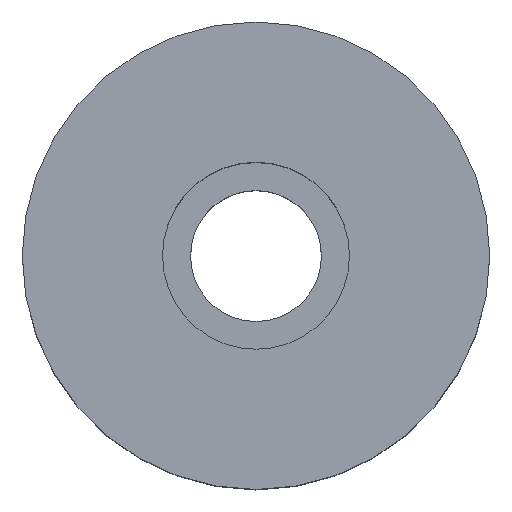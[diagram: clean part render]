
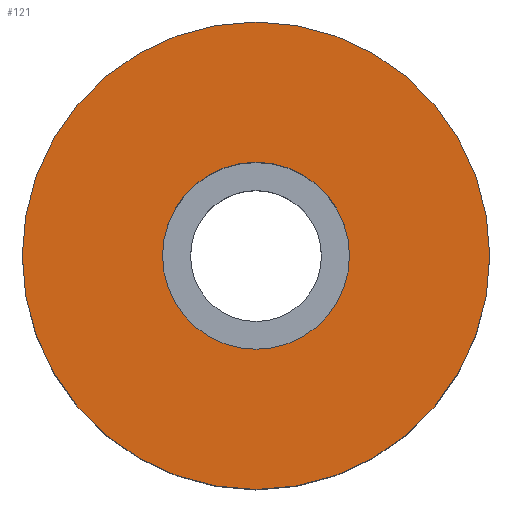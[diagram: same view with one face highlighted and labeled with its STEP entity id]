
A CAD part, top view. The second image highlights one B-rep face of the part: STEP entity #121.
In plain terms, the highlighted planar face has unit normal (0, 0, 1).
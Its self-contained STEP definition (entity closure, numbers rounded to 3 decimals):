
#121=ADVANCED_FACE('',(#133,#134),#130,.T.);
#130=PLANE('',#234);
#133=FACE_BOUND('',#139,.T.);
#134=FACE_BOUND('',#140,.T.);
#139=EDGE_LOOP('',(#151,#152));
#140=EDGE_LOOP('',(#153,#154));
#151=ORIENTED_EDGE('',*,*,#199,.T.);
#152=ORIENTED_EDGE('',*,*,#200,.T.);
#153=ORIENTED_EDGE('',*,*,#201,.F.);
#154=ORIENTED_EDGE('',*,*,#202,.F.);
#187=VERTEX_POINT('',#303);
#188=VERTEX_POINT('',#304);
#189=VERTEX_POINT('',#307);
#190=VERTEX_POINT('',#308);
#199=EDGE_CURVE('',#187,#188,#217,.T.);
#200=EDGE_CURVE('',#188,#187,#218,.T.);
#201=EDGE_CURVE('',#189,#190,#219,.T.);
#202=EDGE_CURVE('',#190,#189,#220,.T.);
#217=CIRCLE('',#230,25.);
#218=CIRCLE('',#231,25.);
#219=CIRCLE('',#232,10.);
#220=CIRCLE('',#233,10.);
#230=AXIS2_PLACEMENT_3D('',#302,#253,#254);
#231=AXIS2_PLACEMENT_3D('',#305,#255,#256);
#232=AXIS2_PLACEMENT_3D('',#306,#257,#258);
#233=AXIS2_PLACEMENT_3D('',#309,#259,#260);
#234=AXIS2_PLACEMENT_3D('',#310,#261,#262);
#253=DIRECTION('',(0.,0.,1.));
#254=DIRECTION('',(0.,1.,0.));
#255=DIRECTION('',(0.,0.,1.));
#256=DIRECTION('',(0.,-1.,0.));
#257=DIRECTION('',(0.,0.,1.));
#258=DIRECTION('',(0.,-1.,0.));
#259=DIRECTION('',(0.,0.,1.));
#260=DIRECTION('',(0.,1.,0.));
#261=DIRECTION('',(0.,0.,1.));
#262=DIRECTION('',(0.,1.,0.));
#302=CARTESIAN_POINT('',(0.,0.,30.));
#303=CARTESIAN_POINT('',(-25.,0.,30.));
#304=CARTESIAN_POINT('',(25.,0.,30.));
#305=CARTESIAN_POINT('',(0.,0.,30.));
#306=CARTESIAN_POINT('',(0.,0.,30.));
#307=CARTESIAN_POINT('',(10.,0.,30.));
#308=CARTESIAN_POINT('',(-10.,0.,30.));
#309=CARTESIAN_POINT('',(0.,0.,30.));
#310=CARTESIAN_POINT('',(0.,0.,30.));
